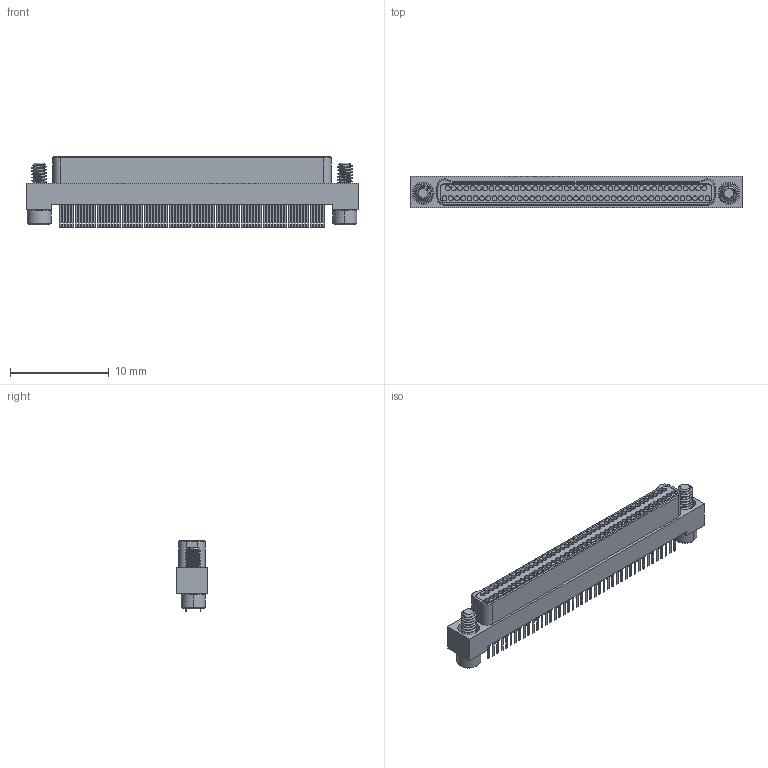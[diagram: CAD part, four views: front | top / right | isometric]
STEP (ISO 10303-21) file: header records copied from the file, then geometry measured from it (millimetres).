
FILE_DESCRIPTION (( 'STEP AP214' ), '1' );
FILE_NAME ('A28500-085 REV B.STEP', '2021-02-26T15:35:07', ( '' ), ( '' ), 'SwSTEP 2.0', 'SolidWorks 2019', '' );
FILE_SCHEMA (( 'AUTOMOTIVE_DESIGN' ));
Length unit declared in the file: inch
Products named in the file (1): A28500-085 REV B
Bounding box: 33.66 x 3.19 x 7.11 mm (x, y, z)
Volume: 352.9 mm3; surface area: 1745.6 mm2
Topology: 1 solids, 1 shells, 1289 faces, 2951 edges, 1952 vertices
Faces by surface type: plane 769, cylinder 412, bspline 54, cone 38, torus 16
Entity records: 58426 total; most frequent: CARTESIAN_POINT 12127, DIRECTION 6081, ORIENTED_EDGE 5902, EDGE_CURVE 2951, AXIS2_PLACEMENT_3D 2084, VERTEX_POINT 1952, VECTOR 1913, LINE 1913
